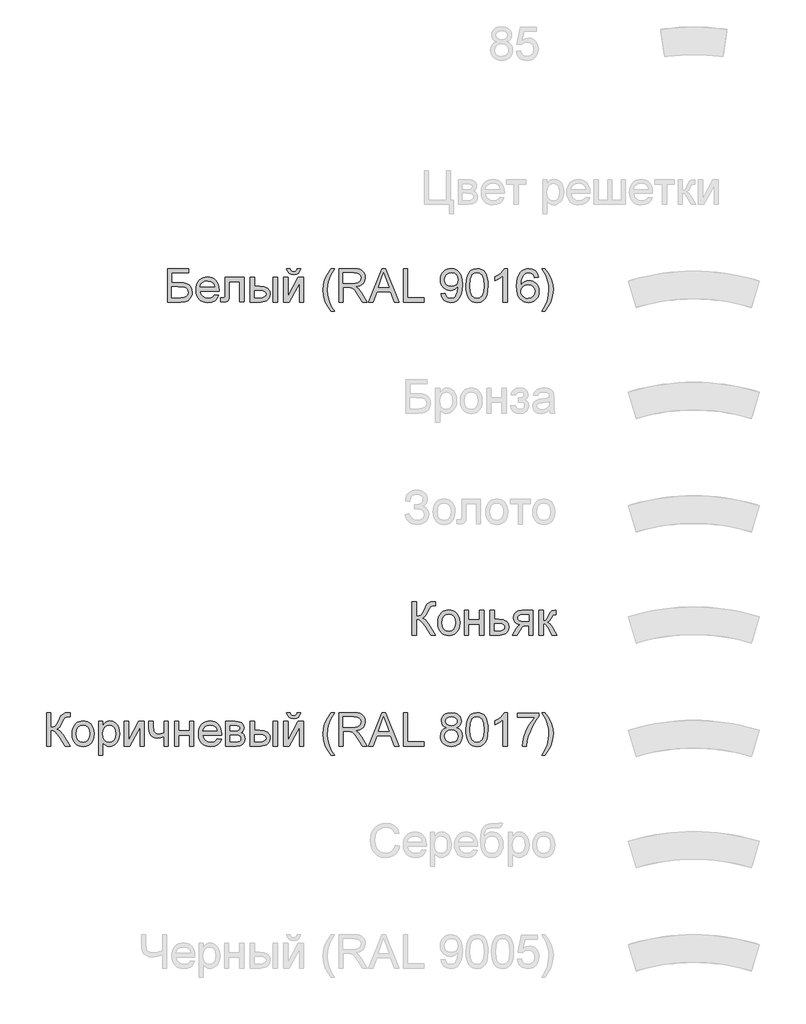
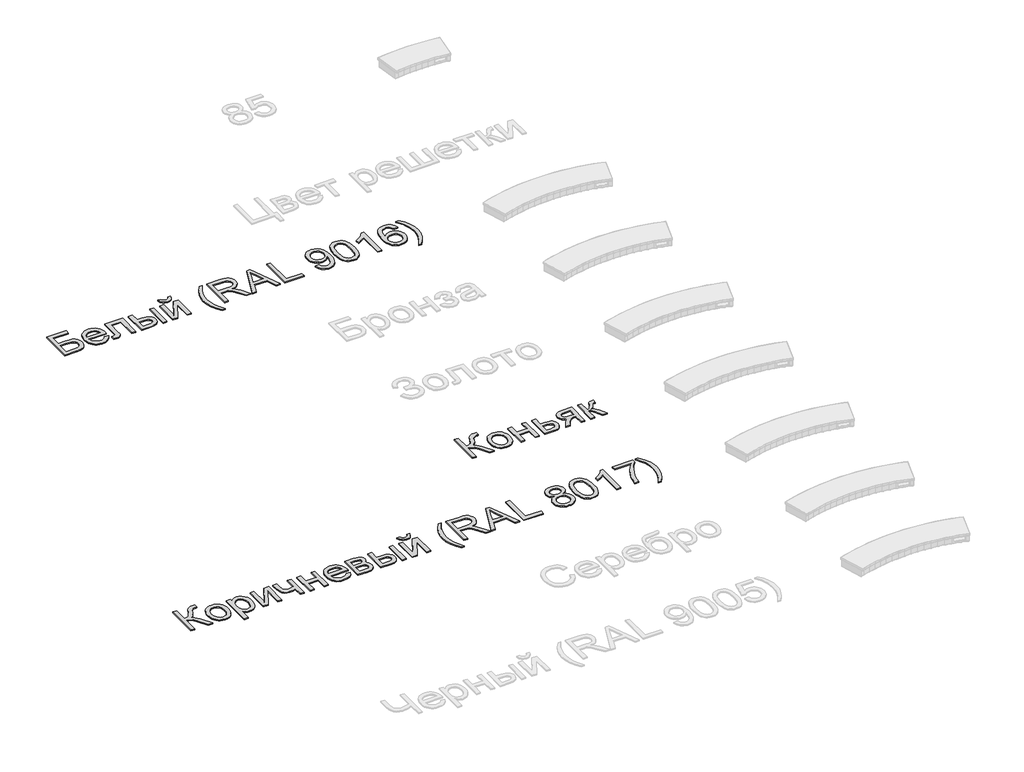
# One storey, part 3 of 9: 3 proxies.
"""IFC4 building model written with IfcOpenShell, lengths in millimetres."""

from ifc_helpers import new_model, si_unit, origin, origin_with_axes, place, context, project, spatial, polyline, outline, extrude, element, save

model = new_model("IFC4")

# Units and contexts
model_context = context("Model", 3, world=origin())
ifc_project = project(units=[si_unit("LENGTHUNIT", "METRE", prefix="MILLI")], contexts=[model_context])

# Site, building, storey
site = spatial("IfcSite", under=ifc_project)
building = spatial("IfcBuilding", under=site)
storey = spatial("IfcBuildingStorey", under=building, Name="Уровень 1", Elevation=0.0)

# Proxies
placement = place(None, origin())
element("IfcBuildingElementProxy", 1, Name="Текст модели 1", ObjectType="Текст модели 1", at=placement, inside=storey, context=model_context, shape_type="SweptSolid", body=[
    extrude(outline(polyline([(-2714.4716436, -2424.9415006), (-2526.1160621, -2424.9415006), (-2526.1160621, -2462.6126169), (-2676.8005273, -2462.6126169), (-2676.8005273, -2552.0815182), (-2606.2407606, -2552.0815182), (-2571.1632124, -2553.9945045), (-2544.0687034, -2559.7334637), (-2523.2649766, -2570.7883176), (-2507.0597747, -2588.6489885), (-2496.6303202, -2611.6416132), (-2493.1538353, -2638.0923286), (-2495.6278417, -2660.3032041), (-2503.049861, -2681.0241575), (-2515.3831049, -2699.1699369), (-2532.5907852, -2713.6552904), (-2559.1334711, -2723.1466459), (-2599.4717319, -2726.3104311), (-2714.4716436, -2726.3104311), (-2714.4716436, -2424.9415006)]), holes=[polyline([(-2676.8005273, -2688.6393148), (-2596.0872176, -2688.6393148), (-2567.5579688, -2685.5307119), (-2547.1589122, -2676.2049033), (-2534.9084418, -2660.661889), (-2530.8249516, -2638.901669), (-2533.1610023, -2622.6964671), (-2540.1691543, -2609.397533), (-2551.3435699, -2599.5382955), (-2566.1784114, -2593.6521836), (-2622.9426032, -2589.7526345), (-2676.8005273, -2589.7526345), (-2676.8005273, -2688.6393148)])]), origin_with_axes(), (0.0, 0.0, 1.0), 10.0),
    extrude(outline(polyline([(-2291.1130436, -2660.3859775), (-2254.1776912, -2665.0948671), (-2267.4858224, -2692.92514), (-2288.7218106, -2713.7288668), (-2317.4074092, -2726.6967072), (-2353.0643715, -2731.0193206), (-2376.4386738, -2729.1546188), (-2397.2653933, -2723.5605132), (-2415.5445299, -2714.2370039), (-2431.2760837, -2701.1840908), (-2443.9266258, -2684.7650575), (-2452.9627273, -2665.3431874), (-2458.3843882, -2642.9184806), (-2460.1916085, -2617.4909369), (-2458.3659941, -2591.2011698), (-2452.8891509, -2568.0292027), (-2443.7610789, -2547.9750354), (-2430.9817781, -2531.038668), (-2415.291611, -2517.5833841), (-2397.4309402, -2507.9724669), (-2377.3997655, -2502.2059167), (-2355.1980871, -2500.2837332), (-2333.7114793, -2502.2013181), (-2314.2804122, -2507.9540728), (-2296.9048857, -2517.5419973), (-2281.5848999, -2530.9650916), (-2269.0792113, -2547.8646708), (-2260.1465766, -2567.8820499), (-2254.7869958, -2591.0172288), (-2253.0004689, -2617.2702077), (-2253.2211981, -2627.4237508), (-2422.5204922, -2627.4237508), (-2415.9997839, -2655.6219057), (-2400.8522427, -2676.3520561), (-2378.9908552, -2689.0991673), (-2352.3286076, -2693.3482043), (-2332.2790388, -2691.3800356), (-2315.3932552, -2685.4755296), (-2301.6712568, -2675.2668043), (-2291.1130436, -2660.3859775)]), holes=[polyline([(-2422.5204922, -2589.7526345), (-2290.6715852, -2589.7526345), (-2295.7667508, -2569.8502185), (-2305.754747, -2555.6131853), (-2327.7173021, -2542.3694335), (-2355.3452399, -2537.9548496), (-2380.7382946, -2541.4773197), (-2401.7351595, -2552.04473), (-2416.3308777, -2568.5166463), (-2422.5204922, -2589.7526345)])]), origin_with_axes(), (0.0, 0.0, 1.0), 10.0),
    extrude(outline(polyline([(-2196.4937944, -2504.9926228), (-2026.973771, -2504.9926228), (-2026.973771, -2726.0897019), (-2064.6448873, -2726.0897019), (-2064.6448873, -2542.6637391), (-2158.8226781, -2542.6637391), (-2158.8226781, -2648.2458717), (-2161.3610639, -2696.9534479), (-2166.1159386, -2707.9807107), (-2175.3037915, -2717.5180514), (-2189.2465191, -2724.1123362), (-2208.2660182, -2726.3104311), (-2238.8738002, -2724.3974447), (-2238.8738002, -2688.6393148), (-2222.0248049, -2688.6393148), (-2204.9918685, -2686.3216582), (-2198.1860516, -2678.9640183), (-2196.4937944, -2646.1121561), (-2196.4937944, -2504.9926228)])), origin_with_axes(), (0.0, 0.0, 1.0), 10.0),
    extrude(outline(polyline([(-1970.4670966, -2504.9926228), (-1932.7959803, -2504.9926228), (-1932.7959803, -2585.0437449), (-1886.2221197, -2585.0437449), (-1845.9666323, -2589.7618315), (-1829.7499341, -2595.6594398), (-1816.1405996, -2603.9160913), (-1805.3731534, -2614.2466776), (-1797.6821205, -2626.36609), (-1793.0675007, -2640.2743287), (-1791.5292941, -2655.9713936), (-1796.6888391, -2682.9279468), (-1812.167474, -2705.6722512), (-1824.0293691, -2714.7014549), (-1838.9768744, -2721.1508861), (-1878.1287158, -2726.3104311), (-1970.4670966, -2726.3104311), (-1970.4670966, -2504.9926228)]), holes=[polyline([(-1932.7959803, -2688.6393148), (-1894.0947944, -2688.6393148), (-1864.0940177, -2686.6619491), (-1844.1364194, -2680.7298519), (-1832.9344127, -2670.6039), (-1829.2004104, -2656.04497), (-1831.9687224, -2643.7393173), (-1840.2736585, -2632.8684043), (-1858.0331618, -2625.253247), (-1889.1651756, -2622.7148612), (-1932.7959803, -2622.7148612), (-1932.7959803, -2688.6393148)])]), origin_with_axes(), (0.0, 0.0, 1.0), 10.0),
    extrude(outline(polyline([(-1763.2759569, -2504.9926228), (-1725.6048406, -2504.9926228), (-1725.6048406, -2726.3104311), (-1763.2759569, -2726.3104311), (-1763.2759569, -2504.9926228)])), origin_with_axes(), (0.0, 0.0, 1.0), 10.0),
    extrude(outline(polyline([(-1546.6670381, -2424.9415006), (-1518.4137009, -2424.9415006), (-1524.4929509, -2449.0653625), (-1536.6974361, -2466.8432599), (-1554.4753335, -2477.7969463), (-1577.2748201, -2481.4481751), (-1602.0148843, -2477.8245374), (-1621.1999303, -2466.9536245), (-1634.3149235, -2449.2033182), (-1640.8448289, -2424.9415006), (-1612.5914917, -2424.9415006), (-1608.6183661, -2437.3483209), (-1601.9964902, -2446.1682918), (-1592.6890757, -2451.4382013), (-1580.6593345, -2453.1948379), (-1567.0844889, -2451.4933836), (-1557.2620396, -2446.389021), (-1550.6401637, -2437.6242324), (-1546.6670381, -2424.9415006)])), origin_with_axes(), (0.0, 0.0, 1.0), 10.0),
    extrude(outline(polyline([(-1669.0981661, -2504.9926228), (-1631.4270498, -2504.9926228), (-1631.4270498, -2673.7768822), (-1538.8679398, -2504.9926228), (-1490.1603637, -2504.9926228), (-1490.1603637, -2726.3104311), (-1527.83148, -2726.3104311), (-1527.83148, -2558.5562413), (-1619.8019788, -2726.3104311), (-1669.0981661, -2726.3104311), (-1669.0981661, -2504.9926228)])), origin_with_axes(), (0.0, 0.0, 1.0), 10.0),
    extrude(outline(polyline([(-1240.5892181, -2811.0704428), (-1269.7806545, -2770.1067826), (-1294.0792602, -2722.7051875), (-1310.4684031, -2671.16492), (-1315.9314507, -2617.7852425), (-1311.8479606, -2570.9722586), (-1299.5974902, -2526.1826257), (-1275.2804903, -2475.4516986), (-1240.5892181, -2424.9415006), (-1212.3358809, -2424.9415006), (-1247.578976, -2484.6119603), (-1268.768979, -2542.4430099), (-1275.8874956, -2580.1325203), (-1278.2603344, -2618.0059717), (-1274.1400561, -2666.2996806), (-1261.7792211, -2714.5749954), (-1241.1778293, -2762.8319162), (-1212.3358809, -2811.0704428), (-1240.5892181, -2811.0704428)])), origin_with_axes(), (0.0, 0.0, 1.0), 10.0),
    extrude(outline(polyline([(-1169.9558751, -2726.3104311), (-1169.9558751, -2424.9415006), (-1040.0935308, -2424.9415006), (-1005.1907265, -2426.9740487), (-979.7976718, -2433.0716927), (-961.2380251, -2444.3288818), (-946.835445, -2461.8400647), (-937.5924099, -2483.5542995), (-934.5113981, -2507.420644), (-939.6157608, -2537.108721), (-954.9288489, -2561.7200264), (-966.528628, -2571.7494093), (-980.9105148, -2579.7646383), (-1018.0206111, -2589.7526345), (-996.6098789, -2605.8658659), (-966.0756733, -2644.6406282), (-915.8229928, -2726.3104311), (-959.6009502, -2726.3104311), (-998.8171709, -2663.8440683), (-1027.1440845, -2622.494132), (-1047.0465005, -2602.9595981), (-1064.9623536, -2595.7858992), (-1086.8145442, -2594.461524), (-1132.2847588, -2594.461524), (-1132.2847588, -2726.3104311), (-1169.9558751, -2726.3104311)]), holes=[polyline([(-1132.2847588, -2556.7904077), (-1047.9662055, -2556.7904077), (-1023.7503731, -2555.4568355), (-1004.9608002, -2551.4561188), (-990.8157375, -2544.5215432), (-980.5334357, -2534.3863942), (-974.2702448, -2522.1267267), (-972.1825145, -2508.8185955), (-976.1648371, -2490.4428899), (-988.1118048, -2475.6356396), (-1008.6672113, -2465.8683726), (-1038.47485, -2462.6126169), (-1132.2847588, -2462.6126169), (-1132.2847588, -2556.7904077)])]), origin_with_axes(), (0.0, 0.0, 1.0), 10.0),
    extrude(outline(polyline([(-903.682887, -2726.3104311), (-783.3854745, -2424.9415006), (-751.3061645, -2424.9415006), (-631.0087521, -2726.3104311), (-670.813584, -2726.3104311), (-705.3209152, -2632.1326403), (-829.4443003, -2632.1326403), (-863.8780551, -2726.3104311), (-903.682887, -2726.3104311)]), holes=[polyline([(-815.6119373, -2594.461524), (-719.0797018, -2594.461524), (-746.229393, -2520.3700902), (-767.3458195, -2462.6126169), (-786.1078013, -2513.8953671), (-815.6119373, -2594.461524)])]), origin_with_axes(), (0.0, 0.0, 1.0), 10.0),
    extrude(outline(polyline([(-590.7624619, -2726.3104311), (-590.7624619, -2424.9415006), (-553.0913455, -2424.9415006), (-553.0913455, -2688.6393148), (-402.4068803, -2688.6393148), (-402.4068803, -2726.3104311), (-590.7624619, -2726.3104311)])), origin_with_axes(), (0.0, 0.0, 1.0), 10.0),
    extrude(outline(polyline([(-251.7224151, -2650.9681985), (-214.0512988, -2646.2593089), (-207.6133639, -2667.6424499), (-197.128727, -2682.2013799), (-182.8549056, -2690.5614982), (-165.049417, -2693.3482043), (-149.0741414, -2691.5547796), (-134.5519996, -2686.1745054), (-122.4854702, -2677.795993), (-113.8770315, -2667.0078535), (-101.5529847, -2634.2663559), (-96.1083311, -2590.5619749), (-96.3290603, -2583.204335), (-109.3796741, -2599.1336253), (-126.4585957, -2611.7519778), (-146.3334205, -2619.9741404), (-167.7717438, -2622.7148612), (-185.6669036, -2621.0409982), (-202.1227251, -2616.0194089), (-217.1392083, -2607.6500935), (-230.7163532, -2595.933052), (-241.9666444, -2581.4798881), (-250.0025668, -2564.9022057), (-254.8241202, -2546.2000048), (-256.4313046, -2525.3732853), (-254.7459452, -2503.8521886), (-249.6898671, -2484.5383839), (-241.2630701, -2467.4318711), (-229.4655544, -2452.5326503), (-215.1296529, -2440.4615223), (-199.0876986, -2431.839288), (-181.3396916, -2426.6659475), (-161.8856319, -2424.9415006), (-133.7886445, -2428.877838), (-108.2116488, -2440.68685), (-86.8193108, -2459.7799256), (-71.2762965, -2485.5684534), (-61.8125321, -2521.2162188), (-58.657944, -2569.8870067), (-61.8033351, -2621.4916536), (-71.2395083, -2661.3792589), (-86.8836901, -2691.3524445), (-108.6531072, -2713.2138321), (-135.6096604, -2726.5679485), (-166.8152506, -2731.0193206), (-199.0233193, -2725.7678051), (-224.7198767, -2710.0132587), (-242.6909121, -2684.7489627), (-251.7224151, -2650.9681985)]), holes=[polyline([(-96.3290603, -2524.4903685), (-100.3941564, -2498.9593581), (-112.5894445, -2479.3144595), (-131.5169732, -2466.7880776), (-155.7787908, -2462.6126169), (-180.9419192, -2467.1099743), (-201.1018526, -2480.6020465), (-214.3456044, -2501.2494235), (-218.7601883, -2527.2126953), (-214.5847277, -2550.4904285), (-202.0583458, -2568.9673017), (-182.3950531, -2581.0246341), (-156.8088603, -2585.0437449), (-132.7401808, -2581.0246341), (-113.3619967, -2568.9673017), (-100.5872944, -2549.8098468), (-96.3290603, -2524.4903685)])]), origin_with_axes(), (0.0, 0.0, 1.0), 10.0),
    extrude(outline(polyline([(-25.6957173, -2578.053987), (-22.9274052, -2529.8154604), (-14.6224692, -2491.3442008), (-0.8636826, -2462.0515969), (18.2661812, -2441.3490376), (42.9050778, -2429.0433849), (73.190963, -2424.9415006), (96.4043169, -2427.3695218), (117.1896497, -2434.6535853), (134.5720739, -2446.5085826), (147.5767025, -2462.6494051), (157.3991517, -2482.9380972), (165.2350382, -2507.236703), (170.3669921, -2538.0928053), (172.0776433, -2578.053987), (169.3369225, -2626.0166021), (161.1147599, -2664.3958913), (147.4387467, -2693.7160863), (128.3364741, -2714.501419), (103.6423952, -2726.8898452), (73.190963, -2731.0193206), (52.4424185, -2729.2258959), (34.0483188, -2723.8456217), (18.0086638, -2714.8784981), (4.3234535, -2702.324525), (-8.8099337, -2679.6308044), (-18.1909246, -2651.3544746), (-23.8195191, -2617.4955354), (-25.6957173, -2578.053987)]), holes=[polyline([(11.975399, -2577.9804106), (16.389983, -2637.237003), (21.9082129, -2657.5050017), (29.6337348, -2671.532802), (49.3522098, -2687.8943537), (73.190963, -2693.3482043), (97.0297163, -2687.8759596), (116.7481913, -2671.4592256), (124.4737132, -2657.4084326), (129.9919431, -2637.1450325), (134.406527, -2577.9804106), (130.1390959, -2520.0573905), (124.804807, -2499.8560704), (117.3368025, -2485.494877), (97.6551157, -2468.333182), (72.7495046, -2462.6126169), (49.1682688, -2467.6526003), (30.222346, -2482.7725503), (22.2393067, -2498.4075351), (16.5371358, -2519.4871734), (11.975399, -2577.9804106)])]), origin_with_axes(), (0.0, 0.0, 1.0), 10.0),
    extrude(outline(polyline([(346.3065563, -2726.3104311), (308.63544, -2726.3104311), (308.63544, -2491.4545654), (272.9508864, -2516.8752112), (233.2932073, -2535.8947104), (233.2932073, -2500.2837332), (262.8801168, -2484.188896), (288.5122948, -2465.0406381), (308.7182134, -2444.6783697), (322.0263446, -2424.9415006), (346.3065563, -2424.9415006), (346.3065563, -2726.3104311)])), origin_with_axes(), (0.0, 0.0, 1.0), 10.0),
    extrude(outline(polyline([(628.8399286, -2504.9926228), (591.1688122, -2509.7015123), (585.0987593, -2491.0315011), (576.8949908, -2478.2843899), (559.8068722, -2466.5305602), (539.1502981, -2462.6126169), (521.6391152, -2464.8934853), (505.1580018, -2471.7360904), (491.003742, -2486.1478676), (479.4430503, -2505.9859042), (471.634755, -2534.0461034), (468.7376843, -2573.1243683), (483.8484372, -2555.4936237), (501.9574284, -2543.0684093), (522.0529824, -2535.7015723), (543.1234237, -2533.24596), (561.2232178, -2534.9244216), (577.9250604, -2539.9598064), (593.2289514, -2548.3521144), (607.1348908, -2560.1013457), (618.690984, -2574.5085243), (626.9453363, -2590.8746746), (631.8979476, -2609.1997964), (633.5488181, -2629.48389), (630.4402152, -2656.4588372), (621.1144067, -2681.4656159), (606.3439446, -2702.6740129), (586.9013811, -2718.2538154), (563.6696331, -2727.8279443), (537.5316174, -2731.0193206), (515.0747208, -2728.9039991), (494.7929266, -2722.5580347), (476.6862346, -2711.9814274), (460.754645, -2697.1741771), (447.7661113, -2677.5108844), (438.4885872, -2652.3661501), (432.9220728, -2621.739974), (431.0665679, -2585.6323561), (433.1267071, -2545.1515411), (439.3071246, -2510.6028232), (449.6078205, -2481.9862025), (464.0287947, -2459.301679), (479.659181, -2444.269101), (497.7819678, -2433.5315452), (518.3971551, -2427.0890118), (541.5047429, -2424.9415006), (574.5589402, -2430.2573955), (601.0280497, -2446.20508), (619.5693023, -2471.5337553), (628.8399286, -2504.9926228)]), holes=[polyline([(468.7376843, -2628.8952788), (470.9173851, -2645.5879243), (477.4564875, -2661.5264117), (487.6100306, -2675.2300161), (500.6330532, -2685.2180122), (516.3508115, -2691.3156563), (534.5885614, -2693.3482043), (559.4481872, -2689.1359555), (578.9919182, -2676.4992089), (591.6562559, -2656.6335812), (595.8777018, -2630.7346887), (591.7114382, -2605.8750629), (579.2126474, -2586.9199431), (559.3378226, -2574.917793), (533.043457, -2570.9170763), (508.2206194, -2574.917793), (487.4628778, -2586.9199431), (473.4189826, -2605.4152104), (468.7376843, -2628.8952788)])]), origin_with_axes(), (0.0, 0.0, 1.0), 10.0),
    extrude(outline(polyline([(685.346603, -2811.0704428), (657.0932658, -2811.0704428), (685.9352142, -2762.8319162), (706.5366059, -2714.5749954), (718.897441, -2666.2996806), (723.0177193, -2618.0059717), (720.6448805, -2580.4084318), (713.5263638, -2543.1051975), (704.5316491, -2513.5458792), (692.5570901, -2485.2005714), (657.0932658, -2424.9415006), (685.346603, -2424.9415006), (720.0378752, -2475.4516986), (744.354875, -2526.1826257), (756.6053455, -2570.9722586), (760.6888356, -2617.7852425), (755.1981968, -2671.16492), (738.7262805, -2722.7051875), (714.4000836, -2770.1067826), (685.346603, -2811.0704428)])), origin_with_axes(), (0.0, 0.0, 1.0), 10.0),
])
element("IfcBuildingElementProxy", 2, Name="Текст модели 1", ObjectType="Текст модели 1", at=placement, inside=storey, context=model_context, shape_type="SweptSolid", body=[
    extrude(outline(polyline([(-510.7113397, -5424.9415006), (-473.0402234, -5424.9415006), (-473.0402234, -5556.7904077), (-447.5368041, -5554.2980072), (-430.9177349, -5546.8208056), (-417.4808451, -5529.2268492), (-401.5239635, -5496.3841841), (-380.7386308, -5454.2616956), (-370.7138464, -5442.8481567), (-357.1941831, -5433.4027865), (-341.1453311, -5427.0568221), (-323.5329806, -5424.9415006), (-298.8113105, -5425.382959), (-298.8113105, -5463.0540753), (-307.1254436, -5462.8333461), (-315.4395767, -5462.6126169), (-332.6932422, -5464.8750912), (-344.8701363, -5471.662514), (-355.3547731, -5485.9179413), (-367.2373616, -5510.4372763), (-381.8146856, -5540.9714819), (-393.9088062, -5557.6733245), (-419.9180633, -5573.2715211), (-405.3269437, -5579.4795298), (-390.8369916, -5590.3044575), (-362.1605901, -5625.80507), (-298.8113105, -5726.3104311), (-342.5156915, -5726.3104311), (-396.07931, -5641.4032666), (-416.7634752, -5614.1708019), (-433.7872145, -5597.0734862), (-451.1972299, -5588.0511802), (-473.0402234, -5585.0437449), (-473.0402234, -5726.3104311), (-510.7113397, -5726.3104311), (-510.7113397, -5424.9415006)])), origin_with_axes(), (0.0, 0.0, 1.0), 10.0),
    extrude(outline(polyline([(-279.9757523, -5615.6515269), (-277.9386058, -5586.988921), (-271.8271661, -5562.2902435), (-261.6414334, -5541.5554946), (-247.3814076, -5524.7846741), (-233.0248127, -5514.0655125), (-217.1782958, -5506.4089685), (-199.8418567, -5501.815042), (-181.0154956, -5500.2837332), (-160.2324622, -5502.1484351), (-141.44059, -5507.7425407), (-124.6398791, -5517.06605), (-109.8303296, -5530.1189631), (-97.7431068, -5546.4598214), (-89.1093762, -5565.6471667), (-83.9291378, -5587.680999), (-82.2023917, -5612.5613182), (-85.2558123, -5650.6187106), (-94.416074, -5679.5894177), (-109.4164623, -5701.2852584), (-129.9902629, -5717.5180514), (-154.4268244, -5727.6440033), (-181.0154956, -5731.0193206), (-202.1020317, -5729.1615165), (-221.0686479, -5723.5881043), (-237.915344, -5714.2990839), (-252.6421201, -5701.2944554), (-264.6005842, -5684.7949479), (-273.1423443, -5665.0212907), (-278.2674003, -5641.9734837), (-279.9757523, -5615.6515269)]), holes=[polyline([(-242.304636, -5615.5779505), (-237.9452344, -5649.6714144), (-224.8670295, -5673.9608232), (-205.1853427, -5688.501359), (-181.0154956, -5693.3482043), (-156.9560131, -5688.4737679), (-137.3111146, -5673.8504586), (-124.2329097, -5649.2391531), (-119.873508, -5614.4007281), (-124.2605008, -5581.3005456), (-137.4214792, -5557.3422307), (-157.0939689, -5542.8016948), (-181.0154956, -5537.9548496), (-205.1853427, -5542.7833007), (-224.8670295, -5557.2686543), (-237.9452344, -5581.5028807), (-242.304636, -5615.5779505)])]), origin_with_axes(), (0.0, 0.0, 1.0), 10.0),
    extrude(outline(polyline([(-39.8223859, -5504.9926228), (-2.1512696, -5504.9926228), (-2.1512696, -5589.7526345), (96.7354107, -5589.7526345), (96.7354107, -5504.9926228), (134.406527, -5504.9926228), (134.406527, -5726.3104311), (96.7354107, -5726.3104311), (96.7354107, -5627.4237508), (-2.1512696, -5627.4237508), (-2.1512696, -5726.3104311), (-39.8223859, -5726.3104311), (-39.8223859, -5504.9926228)])), origin_with_axes(), (0.0, 0.0, 1.0), 10.0),
    extrude(outline(polyline([(190.9132015, -5504.9926228), (228.5843178, -5504.9926228), (228.5843178, -5585.0437449), (271.9943932, -5585.0437449), (309.6287213, -5589.7618315), (324.7762625, -5595.6594398), (337.4773884, -5603.9160913), (347.5205668, -5614.2466776), (354.6942658, -5626.36609), (360.4332249, -5655.9713936), (355.5495914, -5682.9279468), (340.8986909, -5705.6722512), (329.6667938, -5714.7014549), (315.5056362, -5721.1508861), (278.39554, -5726.3104311), (190.9132015, -5726.3104311), (190.9132015, -5504.9926228)]), holes=[polyline([(228.5843178, -5688.6393148), (263.7538365, -5688.6393148), (291.0414835, -5686.6619491), (309.1872629, -5680.7298519), (319.3683972, -5670.6039), (322.7621086, -5656.04497), (320.251314, -5643.7393173), (312.7189301, -5632.8684043), (296.5781076, -5625.253247), (268.2419969, -5622.7148612), (228.5843178, -5622.7148612), (228.5843178, -5688.6393148)])]), origin_with_axes(), (0.0, 0.0, 1.0), 10.0),
    extrude(outline(polyline([(577.0421436, -5504.9926228), (577.0421436, -5726.3104311), (539.3710273, -5726.3104311), (539.3710273, -5641.5504194), (518.843212, -5641.5504194), (490.8841804, -5646.3328853), (479.7189618, -5656.7623399), (464.6174059, -5678.4857717), (434.5982351, -5726.3104311), (391.0410069, -5726.3104311), (428.859276, -5665.8306311), (445.5611186, -5644.1255934), (460.938586, -5634.4870851), (435.1868463, -5626.5960163), (417.0870521, -5611.604825), (406.3816861, -5591.6656208), (402.8132307, -5568.9305135), (407.6876672, -5543.1419857), (422.3109765, -5522.724535), (446.1681239, -5509.4256008), (478.7440745, -5504.9926228), (577.0421436, -5504.9926228)]), holes=[polyline([(539.3710273, -5542.6637391), (489.706958, -5542.6637391), (464.0563859, -5544.8434399), (449.4974559, -5551.3825424), (442.7376242, -5560.8463067), (440.484347, -5571.7999931), (443.804482, -5586.156588), (453.7648871, -5596.116993), (472.1681839, -5601.9387256), (500.8169942, -5603.8793031), (539.3710273, -5603.8793031), (539.3710273, -5542.6637391)])]), origin_with_axes(), (0.0, 0.0, 1.0), 10.0),
    extrude(outline(polyline([(633.5488181, -5504.9926228), (671.2199344, -5504.9926228), (671.2199344, -5599.1704135), (686.5422195, -5597.4781564), (696.4566393, -5592.4013848), (705.2306249, -5579.157633), (717.1316074, -5552.964435), (734.3116966, -5518.9353504), (749.4684348, -5507.8621023), (777.0227962, -5504.9926228), (784.2332833, -5504.9926228), (784.2332833, -5542.8844683), (774.0797403, -5542.6637391), (755.6856405, -5546.6368646), (742.7361943, -5571.4321111), (727.5426679, -5598.2507086), (706.2423003, -5611.3840958), (718.1800711, -5616.686195), (730.0074772, -5626.0441933), (753.3311957, -5656.9278868), (793.6510624, -5726.3104311), (750.8295982, -5726.3104311), (711.3190719, -5658.3994148), (691.4534441, -5629.6678309), (682.1644238, -5624.4531037), (671.2199344, -5622.7148612), (671.2199344, -5726.3104311), (633.5488181, -5726.3104311), (633.5488181, -5504.9926228)])), origin_with_axes(), (0.0, 0.0, 1.0), 10.0),
])
element("IfcBuildingElementProxy", 3, Name="Текст модели 1", ObjectType="Текст модели 1", at=placement, inside=storey, context=model_context, shape_type="SweptSolid", body=[
    extrude(outline(polyline([(-3806.9340165, -6424.9415006), (-3769.2629002, -6424.9415006), (-3769.2629002, -6556.7904077), (-3743.7594809, -6554.2980072), (-3727.1404117, -6546.8208056), (-3713.7035219, -6529.2268492), (-3697.7466403, -6496.3841841), (-3676.9613076, -6454.2616956), (-3666.9365232, -6442.8481567), (-3653.4168599, -6433.4027865), (-3637.3680079, -6427.0568221), (-3619.7556573, -6424.9415006), (-3595.0339873, -6425.382959), (-3595.0339873, -6463.0540753), (-3603.3481204, -6462.8333461), (-3611.6622534, -6462.6126169), (-3628.915919, -6464.8750912), (-3641.0928131, -6471.662514), (-3651.5774499, -6485.9179413), (-3663.4600384, -6510.4372763), (-3678.0373624, -6540.9714819), (-3690.131483, -6557.6733245), (-3716.1407401, -6573.2715211), (-3701.5496204, -6579.4795298), (-3687.0596684, -6590.3044575), (-3658.3832668, -6625.80507), (-3595.0339873, -6726.3104311), (-3638.7383683, -6726.3104311), (-3692.3019868, -6641.4032666), (-3712.986152, -6614.1708019), (-3730.0098913, -6597.0734862), (-3747.4199067, -6588.0511802), (-3769.2629002, -6585.0437449), (-3769.2629002, -6726.3104311), (-3806.9340165, -6726.3104311), (-3806.9340165, -6424.9415006)])), origin_with_axes(), (0.0, 0.0, 1.0), 10.0),
    extrude(outline(polyline([(-3576.1984291, -6615.6515269), (-3574.1612826, -6586.988921), (-3568.0498429, -6562.2902435), (-3557.8641102, -6541.5554946), (-3543.6040843, -6524.7846741), (-3529.2474895, -6514.0655125), (-3513.4009725, -6506.4089685), (-3496.0645335, -6501.815042), (-3477.2381724, -6500.2837332), (-3456.4551389, -6502.1484351), (-3437.6632668, -6507.7425407), (-3420.8625559, -6517.06605), (-3406.0530063, -6530.1189631), (-3393.9657835, -6546.4598214), (-3385.332053, -6565.6471667), (-3380.1518146, -6587.680999), (-3378.4250685, -6612.5613182), (-3381.4784891, -6650.6187106), (-3390.6387507, -6679.5894177), (-3405.6391391, -6701.2852584), (-3426.2129397, -6717.5180514), (-3450.6495012, -6727.6440033), (-3477.2381724, -6731.0193206), (-3498.3247085, -6729.1615165), (-3517.2913246, -6723.5881043), (-3534.1380208, -6714.2990839), (-3548.8647969, -6701.2944554), (-3560.823261, -6684.7949479), (-3569.3650211, -6665.0212907), (-3574.4900771, -6641.9734837), (-3576.1984291, -6615.6515269)]), holes=[polyline([(-3538.5273128, -6615.5779505), (-3534.1679112, -6649.6714144), (-3521.0897062, -6673.9608232), (-3501.4080195, -6688.501359), (-3477.2381724, -6693.3482043), (-3453.1786899, -6688.4737679), (-3433.5337914, -6673.8504586), (-3420.4555865, -6649.2391531), (-3416.0961848, -6614.4007281), (-3420.4831776, -6581.3005456), (-3433.644156, -6557.3422307), (-3453.3166457, -6542.8016948), (-3477.2381724, -6537.9548496), (-3501.4080195, -6542.7833007), (-3521.0897062, -6557.2686543), (-3534.1679112, -6581.5028807), (-3538.5273128, -6615.5779505)])]), origin_with_axes(), (0.0, 0.0, 1.0), 10.0),
    extrude(outline(polyline([(-3336.0450627, -6811.0704428), (-3336.0450627, -6504.9926228), (-3298.3739464, -6504.9926228), (-3298.3739464, -6541.9279751), (-3286.0866877, -6523.7086193), (-3272.3279011, -6510.6947937), (-3256.2882461, -6502.8864984), (-3237.1583824, -6500.2837332), (-3211.6825542, -6503.925765), (-3189.4072994, -6514.8518603), (-3171.270717, -6532.3998314), (-3158.2109062, -6555.9074909), (-3150.3198374, -6583.6641875), (-3147.6894811, -6613.9592698), (-3150.6601282, -6646.1765355), (-3159.5720696, -6674.9908928), (-3174.1401966, -6698.9400106), (-3194.0794007, -6716.5615582), (-3217.3019517, -6727.40488), (-3241.7201191, -6731.0193206), (-3259.038164, -6728.6004965), (-3274.4984049, -6721.3440241), (-3287.7329596, -6710.3903377), (-3298.3739464, -6696.8798715), (-3298.3739464, -6811.0704428), (-3336.0450627, -6811.0704428)]), holes=[polyline([(-3298.3739464, -6617.4173605), (-3294.2996533, -6651.1889277), (-3282.076774, -6674.8069518), (-3264.0413592, -6688.7128912), (-3242.5294595, -6693.3482043), (-3220.6680719, -6688.5473443), (-3202.1728046, -6674.1447642), (-3189.5636492, -6649.6622174), (-3185.3605974, -6614.6214573), (-3189.4624817, -6581.0338312), (-3201.7681344, -6557.0847133), (-3219.7759581, -6542.7373155), (-3240.9843551, -6537.9548496), (-3262.2755256, -6543.0408181), (-3280.973128, -6558.2987239), (-3294.0237418, -6583.2503202), (-3298.3739464, -6617.4173605)])]), origin_with_axes(), (0.0, 0.0, 1.0), 10.0),
    extrude(outline(polyline([(-3105.3094753, -6504.9926228), (-3067.638359, -6504.9926228), (-3067.638359, -6673.7768822), (-2975.079249, -6504.9926228), (-2926.3716728, -6504.9926228), (-2926.3716728, -6726.3104311), (-2964.0427891, -6726.3104311), (-2964.0427891, -6558.5562413), (-3056.0132879, -6726.3104311), (-3105.3094753, -6726.3104311), (-3105.3094753, -6504.9926228)])), origin_with_axes(), (0.0, 0.0, 1.0), 10.0),
    extrude(outline(polyline([(-2883.991667, -6504.9926228), (-2846.3205507, -6504.9926228), (-2846.3205507, -6547.446205), (-2843.2671301, -6587.2510369), (-2838.0707969, -6598.8209257), (-2828.5886385, -6608.8089218), (-2815.4920395, -6615.7067092), (-2799.4523845, -6618.0059717), (-2776.4045775, -6615.1548862), (-2747.4338704, -6606.6016299), (-2747.4338704, -6504.9926228), (-2709.7627541, -6504.9926228), (-2709.7627541, -6726.3104311), (-2747.4338704, -6726.3104311), (-2747.4338704, -6642.7276418), (-2779.5867568, -6652.4397265), (-2809.5323512, -6655.677088), (-2832.3134437, -6652.3017707), (-2852.2434508, -6642.1758188), (-2867.7772681, -6627.1570363), (-2877.3697911, -6609.1032274), (-2882.336198, -6588.557018), (-2883.991667, -6566.061034), (-2883.991667, -6504.9926228)])), origin_with_axes(), (0.0, 0.0, 1.0), 10.0),
    extrude(outline(polyline([(-2653.2560796, -6504.9926228), (-2615.5849633, -6504.9926228), (-2615.5849633, -6589.7526345), (-2516.698283, -6589.7526345), (-2516.698283, -6504.9926228), (-2479.0271667, -6504.9926228), (-2479.0271667, -6726.3104311), (-2516.698283, -6726.3104311), (-2516.698283, -6627.4237508), (-2615.5849633, -6627.4237508), (-2615.5849633, -6726.3104311), (-2653.2560796, -6726.3104311), (-2653.2560796, -6504.9926228)])), origin_with_axes(), (0.0, 0.0, 1.0), 10.0),
    extrude(outline(polyline([(-2267.5685959, -6660.3859775), (-2230.6332436, -6665.0948671), (-2243.9413747, -6692.92514), (-2265.1773629, -6713.7288668), (-2293.8629615, -6726.6967072), (-2329.5199239, -6731.0193206), (-2352.8942261, -6729.1546188), (-2373.7209456, -6723.5605132), (-2392.0000822, -6714.2370039), (-2407.731636, -6701.1840908), (-2420.3821781, -6684.7650575), (-2429.4182796, -6665.3431874), (-2434.8399406, -6642.9184806), (-2436.6471609, -6617.4909369), (-2434.8215465, -6591.2011698), (-2429.3447032, -6568.0292027), (-2420.2166312, -6547.9750354), (-2407.4373304, -6531.038668), (-2391.7471633, -6517.5833841), (-2373.8864925, -6507.9724669), (-2353.8553178, -6502.2059167), (-2331.6536394, -6500.2837332), (-2310.1670316, -6502.2013181), (-2290.7359645, -6507.9540728), (-2273.360438, -6517.5419973), (-2258.0404522, -6530.9650916), (-2245.5347636, -6547.8646708), (-2236.6021289, -6567.8820499), (-2231.2425481, -6591.0172288), (-2229.4560212, -6617.2702077), (-2229.6767504, -6627.4237508), (-2398.9760445, -6627.4237508), (-2392.4553362, -6655.6219057), (-2377.307795, -6676.3520561), (-2355.4464075, -6689.0991673), (-2328.7841599, -6693.3482043), (-2308.7345911, -6691.3800356), (-2291.8488076, -6685.4755296), (-2278.1268091, -6675.2668043), (-2267.5685959, -6660.3859775)]), holes=[polyline([(-2398.9760445, -6589.7526345), (-2267.1271375, -6589.7526345), (-2272.2223031, -6569.8502185), (-2282.2102993, -6555.6131853), (-2304.1728544, -6542.3694335), (-2331.8007922, -6537.9548496), (-2357.1938469, -6541.4773197), (-2378.1907118, -6552.04473), (-2392.78643, -6568.5166463), (-2398.9760445, -6589.7526345)])]), origin_with_axes(), (0.0, 0.0, 1.0), 10.0),
    extrude(outline(polyline([(-2191.7849049, -6504.9926228), (-2108.7907268, -6504.9926228), (-2082.1100851, -6506.2526186), (-2063.2837239, -6510.0326061), (-2049.4329668, -6517.1695168), (-2037.6791371, -6528.5002823), (-2029.6501125, -6543.2615473), (-2026.973771, -6560.6899569), (-2028.5924518, -6574.733852), (-2033.4484941, -6586.8463667), (-2041.5602921, -6597.0826832), (-2052.9462399, -6605.4979839), (-2039.0035123, -6613.3246733), (-2027.6359586, -6625.9154346), (-2020.0759836, -6642.2769863), (-2017.5559919, -6661.4160471), (-2023.9387446, -6690.1292369), (-2039.1138769, -6710.3443525), (-2063.1365712, -6722.3189114), (-2096.0620097, -6726.3104311), (-2191.7849049, -6726.3104311), (-2191.7849049, -6504.9926228)]), holes=[polyline([(-2154.1137886, -6589.7526345), (-2116.8841306, -6589.7526345), (-2086.165984, -6587.8396481), (-2071.229975, -6580.1877026), (-2066.2911593, -6573.8601323), (-2064.6448873, -6566.3553396), (-2067.532761, -6555.1165446), (-2076.196382, -6547.8876634), (-2091.8497609, -6543.9697202), (-2115.7069083, -6542.6637391), (-2154.1137886, -6542.6637391), (-2154.1137886, -6589.7526345)]), polyline([(-2154.1137886, -6688.6393148), (-2107.90781, -6688.6393148), (-2082.7262874, -6686.9378605), (-2066.9257557, -6681.8334979), (-2058.4460757, -6672.5536745), (-2055.2271083, -6658.3258384), (-2056.836592, -6648.8988622), (-2061.6650432, -6640.189256), (-2069.0778654, -6633.3742421), (-2078.4404621, -6629.6310427), (-2111.5866299, -6627.4237508), (-2154.1137886, -6627.4237508), (-2154.1137886, -6688.6393148)])]), origin_with_axes(), (0.0, 0.0, 1.0), 10.0),
    extrude(outline(polyline([(-1970.4670966, -6504.9926228), (-1932.7959803, -6504.9926228), (-1932.7959803, -6585.0437449), (-1886.2221197, -6585.0437449), (-1845.9666323, -6589.7618315), (-1829.7499341, -6595.6594398), (-1816.1405996, -6603.9160913), (-1805.3731534, -6614.2466776), (-1797.6821205, -6626.36609), (-1793.0675007, -6640.2743287), (-1791.5292941, -6655.9713936), (-1796.6888391, -6682.9279468), (-1812.167474, -6705.6722512), (-1824.0293691, -6714.7014549), (-1838.9768744, -6721.1508861), (-1878.1287158, -6726.3104311), (-1970.4670966, -6726.3104311), (-1970.4670966, -6504.9926228)]), holes=[polyline([(-1932.7959803, -6688.6393148), (-1894.0947944, -6688.6393148), (-1864.0940177, -6686.6619491), (-1844.1364194, -6680.7298519), (-1832.9344127, -6670.6039), (-1829.2004104, -6656.04497), (-1831.9687224, -6643.7393173), (-1840.2736585, -6632.8684043), (-1858.0331618, -6625.253247), (-1889.1651756, -6622.7148612), (-1932.7959803, -6622.7148612), (-1932.7959803, -6688.6393148)])]), origin_with_axes(), (0.0, 0.0, 1.0), 10.0),
    extrude(outline(polyline([(-1763.2759569, -6504.9926228), (-1725.6048406, -6504.9926228), (-1725.6048406, -6726.3104311), (-1763.2759569, -6726.3104311), (-1763.2759569, -6504.9926228)])), origin_with_axes(), (0.0, 0.0, 1.0), 10.0),
    extrude(outline(polyline([(-1669.0981661, -6504.9926228), (-1631.4270498, -6504.9926228), (-1631.4270498, -6673.7768822), (-1538.8679398, -6504.9926228), (-1490.1603637, -6504.9926228), (-1490.1603637, -6726.3104311), (-1527.83148, -6726.3104311), (-1527.83148, -6558.5562413), (-1619.8019788, -6726.3104311), (-1669.0981661, -6726.3104311), (-1669.0981661, -6504.9926228)])), origin_with_axes(), (0.0, 0.0, 1.0), 10.0),
    extrude(outline(polyline([(-1546.6670381, -6424.9415006), (-1518.4137009, -6424.9415006), (-1524.4929509, -6449.0653625), (-1536.6974361, -6466.8432599), (-1554.4753335, -6477.7969463), (-1577.2748201, -6481.4481751), (-1602.0148843, -6477.8245374), (-1621.1999303, -6466.9536245), (-1634.3149235, -6449.2033182), (-1640.8448289, -6424.9415006), (-1612.5914917, -6424.9415006), (-1608.6183661, -6437.3483209), (-1601.9964902, -6446.1682918), (-1592.6890757, -6451.4382013), (-1580.6593345, -6453.1948379), (-1567.0844889, -6451.4933836), (-1557.2620396, -6446.389021), (-1550.6401637, -6437.6242324), (-1546.6670381, -6424.9415006)])), origin_with_axes(), (0.0, 0.0, 1.0), 10.0),
    extrude(outline(polyline([(-1240.5892181, -6811.0704428), (-1269.7806545, -6770.1067826), (-1294.0792602, -6722.7051875), (-1310.4684031, -6671.16492), (-1315.9314507, -6617.7852425), (-1311.8479606, -6570.9722586), (-1299.5974902, -6526.1826257), (-1275.2804903, -6475.4516986), (-1240.5892181, -6424.9415006), (-1212.3358809, -6424.9415006), (-1247.578976, -6484.6119603), (-1268.768979, -6542.4430099), (-1275.8874956, -6580.1325203), (-1278.2603344, -6618.0059717), (-1274.1400561, -6666.2996806), (-1261.7792211, -6714.5749954), (-1241.1778293, -6762.8319162), (-1212.3358809, -6811.0704428), (-1240.5892181, -6811.0704428)])), origin_with_axes(), (0.0, 0.0, 1.0), 10.0),
    extrude(outline(polyline([(-1169.9558751, -6726.3104311), (-1169.9558751, -6424.9415006), (-1040.0935308, -6424.9415006), (-1005.1907265, -6426.9740487), (-979.7976718, -6433.0716927), (-961.2380251, -6444.3288818), (-946.835445, -6461.8400647), (-937.5924099, -6483.5542995), (-934.5113981, -6507.420644), (-939.6157608, -6537.108721), (-954.9288489, -6561.7200264), (-966.528628, -6571.7494093), (-980.9105148, -6579.7646383), (-1018.0206111, -6589.7526345), (-996.6098789, -6605.8658659), (-966.0756733, -6644.6406282), (-915.8229928, -6726.3104311), (-959.6009502, -6726.3104311), (-998.8171709, -6663.8440683), (-1027.1440845, -6622.494132), (-1047.0465005, -6602.9595981), (-1064.9623536, -6595.7858992), (-1086.8145442, -6594.461524), (-1132.2847588, -6594.461524), (-1132.2847588, -6726.3104311), (-1169.9558751, -6726.3104311)]), holes=[polyline([(-1132.2847588, -6556.7904077), (-1047.9662055, -6556.7904077), (-1023.7503731, -6555.4568355), (-1004.9608002, -6551.4561188), (-990.8157375, -6544.5215432), (-980.5334357, -6534.3863942), (-974.2702448, -6522.1267267), (-972.1825145, -6508.8185955), (-976.1648371, -6490.4428899), (-988.1118048, -6475.6356396), (-1008.6672113, -6465.8683726), (-1038.47485, -6462.6126169), (-1132.2847588, -6462.6126169), (-1132.2847588, -6556.7904077)])]), origin_with_axes(), (0.0, 0.0, 1.0), 10.0),
    extrude(outline(polyline([(-903.682887, -6726.3104311), (-783.3854745, -6424.9415006), (-751.3061645, -6424.9415006), (-631.0087521, -6726.3104311), (-670.813584, -6726.3104311), (-705.3209152, -6632.1326403), (-829.4443003, -6632.1326403), (-863.8780551, -6726.3104311), (-903.682887, -6726.3104311)]), holes=[polyline([(-815.6119373, -6594.461524), (-719.0797018, -6594.461524), (-746.229393, -6520.3700902), (-767.3458195, -6462.6126169), (-786.1078013, -6513.8953671), (-815.6119373, -6594.461524)])]), origin_with_axes(), (0.0, 0.0, 1.0), 10.0),
    extrude(outline(polyline([(-590.7624619, -6726.3104311), (-590.7624619, -6424.9415006), (-553.0913455, -6424.9415006), (-553.0913455, -6688.6393148), (-402.4068803, -6688.6393148), (-402.4068803, -6726.3104311), (-590.7624619, -6726.3104311)])), origin_with_axes(), (0.0, 0.0, 1.0), 10.0),
    extrude(outline(polyline([(-201.543311, -6560.3220749), (-221.7124413, -6550.389261), (-235.8667011, -6536.92478), (-244.2268194, -6520.2045433), (-247.0135256, -6500.5044624), (-245.4960123, -6485.1407906), (-240.9434726, -6471.0555087), (-233.3559065, -6458.2486168), (-222.7333139, -6446.7201147), (-209.5861311, -6437.1919711), (-194.4247944, -6430.3861542), (-158.0596591, -6424.9415006), (-121.4737947, -6430.5149129), (-106.1469111, -6437.4816781), (-92.7973932, -6447.2351495), (-81.9816625, -6458.9889793), (-74.2561406, -6471.9568196), (-69.6208275, -6486.1386705), (-68.0757231, -6501.534532), (-70.825641, -6520.6000164), (-79.0753948, -6537.0351446), (-92.9169548, -6550.4168521), (-112.4422917, -6560.3220749), (-89.256529, -6572.2690427), (-72.3799425, -6589.8629991), (-62.0884436, -6612.2578155), (-58.657944, -6638.6073634), (-60.3593983, -6657.3969363), (-65.4637609, -6674.6230108), (-73.9710321, -6690.2855867), (-85.8812117, -6704.3846642), (-100.5689003, -6716.0373264), (-117.4086987, -6724.3606565), (-136.4006067, -6729.3546546), (-157.5446243, -6731.0193206), (-178.688642, -6729.3477568), (-197.68055, -6724.3330654), (-214.5203483, -6715.9752463), (-229.208037, -6704.2742996), (-241.1182166, -6690.0763538), (-249.6254877, -6674.2275376), (-254.7298504, -6656.727851), (-256.4313046, -6637.5772938), (-252.8628493, -6610.2068734), (-242.1574832, -6587.6924953), (-224.8670295, -6570.8067117), (-201.543311, -6560.3220749)]), holes=[polyline([(-209.3424093, -6501.6081084), (-206.0038801, -6518.0524336), (-195.9882928, -6531.1858208), (-179.5899529, -6539.7942595), (-157.1031659, -6542.6637391), (-135.1406108, -6539.8126536), (-118.9905912, -6531.2593972), (-109.0577774, -6518.5674684), (-105.7468394, -6503.3003656), (-109.168142, -6487.4538487), (-119.4320496, -6474.3480526), (-135.8027984, -6465.5464759), (-157.5446243, -6462.6126169), (-179.424406, -6465.4820965), (-195.7675636, -6474.0905352), (-205.9486978, -6486.7088876), (-209.3424093, -6501.6081084)]), polyline([(-218.7601883, -6636.2529187), (-212.4694062, -6664.6166205), (-203.7598, -6676.7843175), (-190.2125455, -6685.8434116), (-173.9889495, -6691.4720061), (-157.2503187, -6693.3482043), (-131.6089437, -6689.4026699), (-112.3687153, -6677.5660667), (-100.3389741, -6659.6410165), (-96.3290603, -6637.430141), (-100.4677328, -6614.8421865), (-112.8837501, -6596.5216632), (-132.5654369, -6584.3815573), (-158.5011175, -6580.3348554), (-183.7838076, -6584.326375), (-202.8308979, -6596.300934), (-214.7778657, -6614.2719695), (-218.7601883, -6636.2529187)])]), origin_with_axes(), (0.0, 0.0, 1.0), 10.0),
    extrude(outline(polyline([(-25.6957173, -6578.053987), (-22.9274052, -6529.8154604), (-14.6224692, -6491.3442008), (-0.8636826, -6462.0515969), (18.2661812, -6441.3490376), (42.9050778, -6429.0433849), (73.190963, -6424.9415006), (96.4043169, -6427.3695218), (117.1896497, -6434.6535853), (134.5720739, -6446.5085826), (147.5767025, -6462.6494051), (157.3991517, -6482.9380972), (165.2350382, -6507.236703), (170.3669921, -6538.0928053), (172.0776433, -6578.053987), (169.3369225, -6626.0166021), (161.1147599, -6664.3958913), (147.4387467, -6693.7160863), (128.3364741, -6714.501419), (103.6423952, -6726.8898452), (73.190963, -6731.0193206), (52.4424185, -6729.2258959), (34.0483188, -6723.8456217), (18.0086638, -6714.8784981), (4.3234535, -6702.324525), (-8.8099337, -6679.6308044), (-18.1909246, -6651.3544746), (-23.8195191, -6617.4955354), (-25.6957173, -6578.053987)]), holes=[polyline([(11.975399, -6577.9804106), (16.389983, -6637.237003), (21.9082129, -6657.5050017), (29.6337348, -6671.532802), (49.3522098, -6687.8943537), (73.190963, -6693.3482043), (97.0297163, -6687.8759596), (116.7481913, -6671.4592256), (124.4737132, -6657.4084326), (129.9919431, -6637.1450325), (134.406527, -6577.9804106), (130.1390959, -6520.0573905), (124.804807, -6499.8560704), (117.3368025, -6485.494877), (97.6551157, -6468.333182), (72.7495046, -6462.6126169), (49.1682688, -6467.6526003), (30.222346, -6482.7725503), (22.2393067, -6498.4075351), (16.5371358, -6519.4871734), (11.975399, -6577.9804106)])]), origin_with_axes(), (0.0, 0.0, 1.0), 10.0),
    extrude(outline(polyline([(346.3065563, -6726.3104311), (308.63544, -6726.3104311), (308.63544, -6491.4545654), (272.9508864, -6516.8752112), (233.2932073, -6535.8947104), (233.2932073, -6500.2837332), (262.8801168, -6484.188896), (288.5122948, -6465.0406381), (308.7182134, -6444.6783697), (322.0263446, -6424.9415006), (346.3065563, -6424.9415006), (346.3065563, -6726.3104311)])), origin_with_axes(), (0.0, 0.0, 1.0), 10.0),
    extrude(outline(polyline([(435.7754575, -6467.3215065), (435.7754575, -6429.6503902), (633.5488181, -6429.6503902), (633.5488181, -6460.1110194), (605.3598602, -6495.7863759), (577.4468138, -6541.1554229), (552.8263113, -6592.0794881), (534.514985, -6644.419899), (525.5386643, -6683.5809373), (520.5354692, -6726.3104311), (482.8643529, -6726.3104311), (486.938646, -6687.4804865), (497.8371501, -6641.3296902), (515.2655596, -6592.4105819), (538.9295689, -6545.2757013), (566.5575068, -6502.6657692), (595.8777018, -6467.3215065), (435.7754575, -6467.3215065)])), origin_with_axes(), (0.0, 0.0, 1.0), 10.0),
    extrude(outline(polyline([(685.346603, -6811.0704428), (657.0932658, -6811.0704428), (685.9352142, -6762.8319162), (706.5366059, -6714.5749954), (718.897441, -6666.2996806), (723.0177193, -6618.0059717), (720.6448805, -6580.4084318), (713.5263638, -6543.1051975), (704.5316491, -6513.5458792), (692.5570901, -6485.2005714), (657.0932658, -6424.9415006), (685.346603, -6424.9415006), (720.0378752, -6475.4516986), (744.354875, -6526.1826257), (756.6053455, -6570.9722586), (760.6888356, -6617.7852425), (755.1981968, -6671.16492), (738.7262805, -6722.7051875), (714.4000836, -6770.1067826), (685.346603, -6811.0704428)])), origin_with_axes(), (0.0, 0.0, 1.0), 10.0),
])

save(model, "model.ifc")
